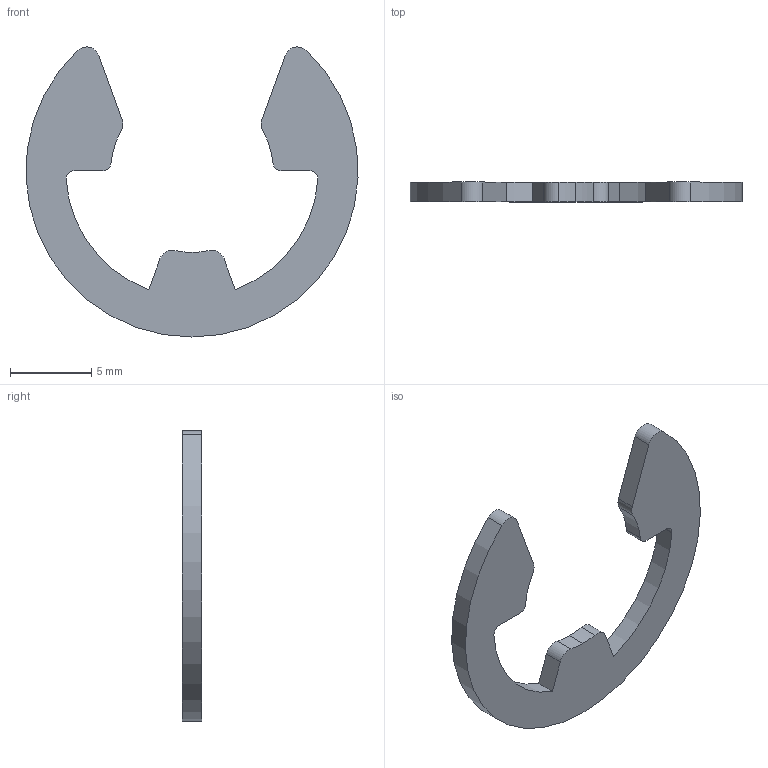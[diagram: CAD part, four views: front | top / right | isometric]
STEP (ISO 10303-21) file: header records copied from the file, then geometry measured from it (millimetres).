
FILE_DESCRIPTION (( 'STEP AP203' ), '1' );
FILE_NAME ('P0382.100-PH.step', '2019-07-25T21:01:08', ( '' ), ( '' ), 'SwSTEP 2.0', 'SolidWorks 2017', '' );
FILE_SCHEMA (( 'CONFIG_CONTROL_DESIGN' ));
Length unit declared in the file: millimetre
Products named in the file (1): P0382.100-PH
Bounding box: 20.38 x 1.2 x 17.81 mm (x, y, z)
Volume: 174.3 mm3; surface area: 408.9 mm2
Topology: 1 solids, 1 shells, 26 faces, 72 edges, 48 vertices
Faces by surface type: cylinder 18, plane 8
Entity records: 929 total; most frequent: DIRECTION 162, CARTESIAN_POINT 147, ORIENTED_EDGE 144, EDGE_CURVE 72, AXIS2_PLACEMENT_3D 63, VERTEX_POINT 48, VECTOR 36, LINE 36
